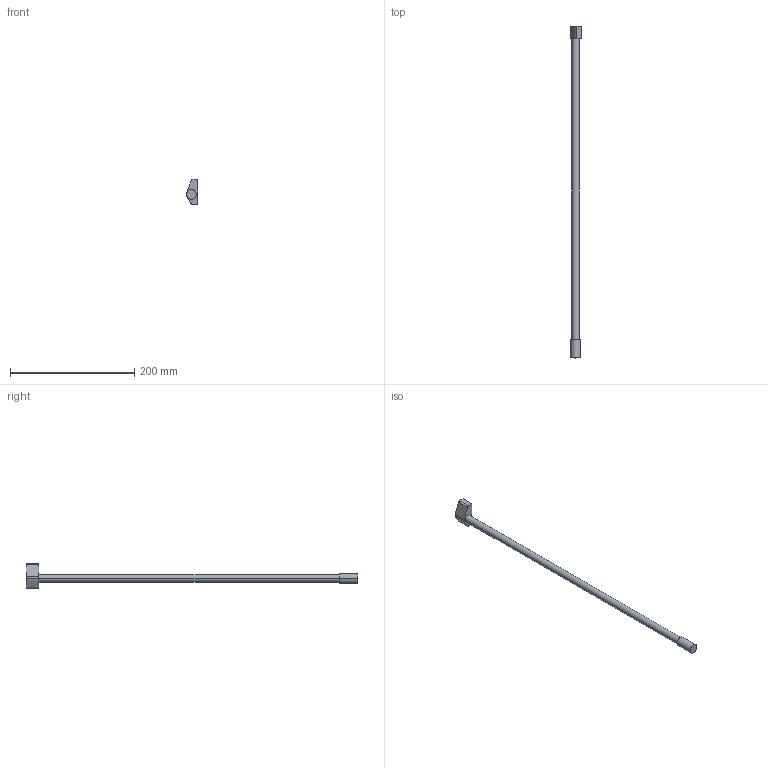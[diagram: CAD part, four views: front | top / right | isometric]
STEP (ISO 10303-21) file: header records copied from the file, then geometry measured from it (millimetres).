
FILE_DESCRIPTION (( 'STEP AP214' ), '1' );
FILE_NAME ('DWD-XP-Reling Innenschub_NL-550_links.step', '2010-09-27T06:30:34', ( 'grass' ), ( '' ), 'SwSTEP 2.0', 'SolidWorks 2010', '' );
FILE_SCHEMA (( 'AUTOMOTIVE_DESIGN' ));
Length unit declared in the file: millimetre
Products named in the file (1): DWD-XP-Reling Innenschub_NL-550_links
Bounding box: 18 x 534.3 x 40.1 mm (x, y, z)
Volume: 71978.7 mm3; surface area: 23076.9 mm2
Topology: 1 solids, 1 shells, 17 faces, 39 edges, 26 vertices
Faces by surface type: plane 9, cylinder 8
Entity records: 523 total; most frequent: DIRECTION 91, CARTESIAN_POINT 83, ORIENTED_EDGE 78, EDGE_CURVE 39, AXIS2_PLACEMENT_3D 34, VERTEX_POINT 26, LINE 23, VECTOR 23
